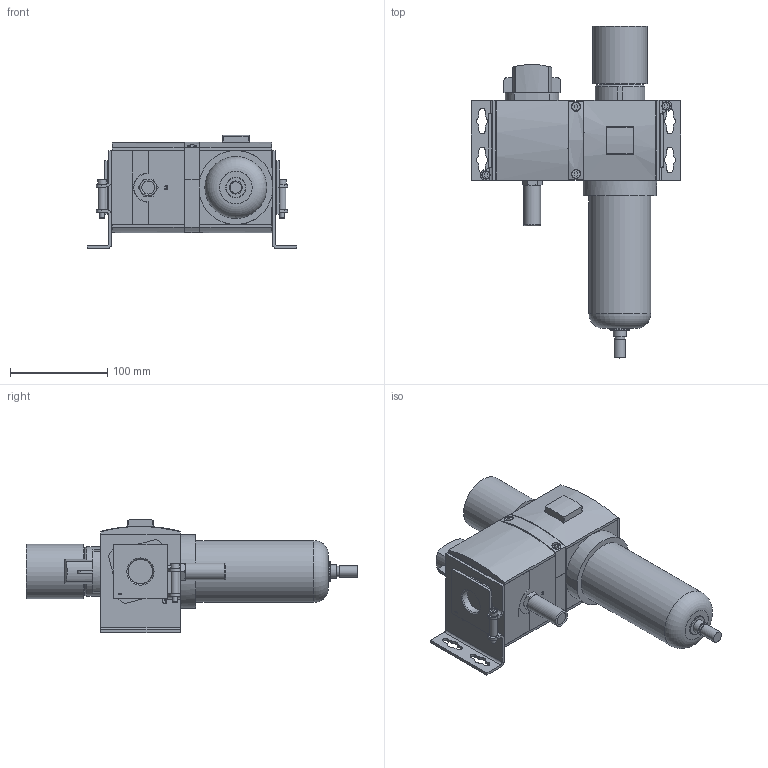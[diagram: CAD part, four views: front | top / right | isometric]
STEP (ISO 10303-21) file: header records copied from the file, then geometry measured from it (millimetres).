
FILE_DESCRIPTION( ( 'STEP AP214' ), '1' );
FILE_NAME( 'p:/temp/worker_164/temp/exporttempdir_2304_266_YA3os/format_0/12092020-150209_gen_31556.stp', '2020-02-12T14:09:10', ( '' ), ( '' ), ' ', 'PARTsolutions', ' ' );
FILE_SCHEMA( ( 'AUTOMOTIVE_DESIGN { 1 0 10303 214 1 1 1 1 }' ) );
Length unit declared in the file: millimetre
Products named in the file (16): 12092020-150209_gen_31556; _440562-004-005-F(L); _439489-001-0; _437742 KNOB-100_653; _653-M3MN; _440561-004-005-F(L); _G653ASLA0A00A00_LS; _439488-011-F(L); _653-438047-009; _439489-002-H; _503493-001; _510722-001-STANDARD_653; _507439-006-P; _653-501862-002; _8653ASLB0L00A00_LS; _8653ASLB0L00A00_RS
Assembly tree (17 placements, depth 2):
  12092020-150209_gen_31556
    _440562-004-005-F(L)
    _439489-001-0  x3
    _437742 KNOB-100_653
    _653-M3MN
    _440561-004-005-F(L)
    _G653ASLA0A00A00_LS
    _439488-011-F(L)
    _653-438047-009
    _439489-002-H
    _503493-001
    _510722-001-STANDARD_653
    _507439-006-P
    _653-501862-002
    _8653ASLB0L00A00_LS
    _8653ASLB0L00A00_RS
Bounding box: 214.98 x 340.9 x 116.41 mm (x, y, z)
Volume: 1990739.6 mm3; surface area: 301884 mm2
Topology: 17 solids, 17 shells, 1028 faces, 2529 edges, 1621 vertices
Faces by surface type: plane 650, cylinder 282, cone 69, torus 23, sphere 4
Full cylindrical faces by diameter (mm): 2.8 x2, 5 x8, 5.85 x4, 6.3 x4, 8 x2, 8.5 x4, 10 x4, 10.4 x1, 10.5 x1, 10.8 x4, 11.671 x1, 12 x4, 12.309 x1, 13.5 x1, 15.1 x1, 16.105 x1, 17.3 x1, 20 x1, 21.6 x1, 29.5 x1, 33.5 x1, 43 x1, 51 x1, 55.99 x1, 63.5 x1
Entity records: 37924 total; most frequent: CARTESIAN_POINT 5524, DIRECTION 5111, ORIENTED_EDGE 4720, EDGE_CURVE 2360, AXIS2_PLACEMENT_3D 1777, VERTEX_POINT 1587, LINE 1557, VECTOR 1557
